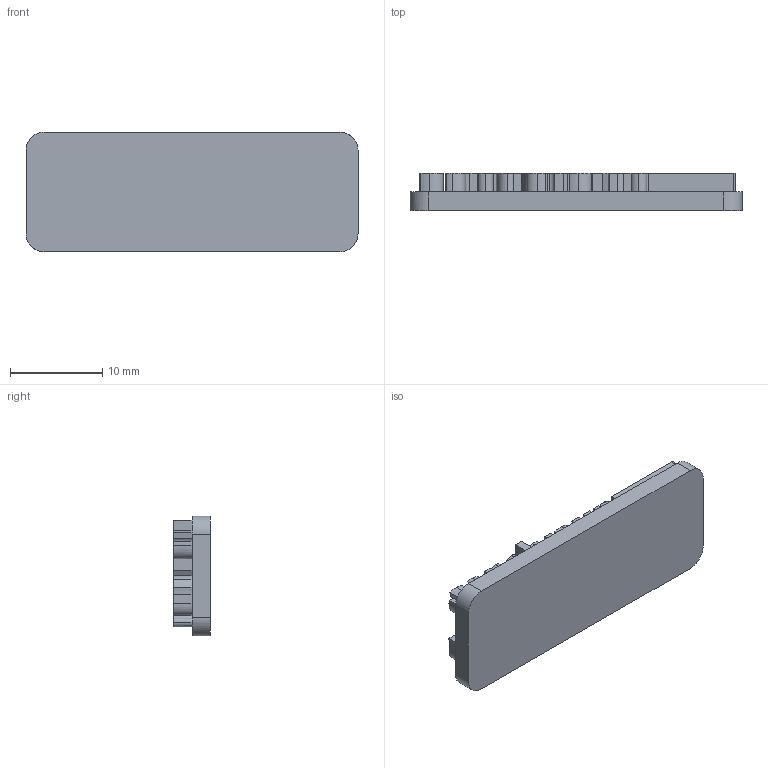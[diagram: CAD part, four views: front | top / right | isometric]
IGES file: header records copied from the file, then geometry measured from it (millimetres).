
Global section: file name: v0; native system: unknown; preprocessor: unknown; author: ddssk.m; organization: unknown; date: 20181025.150640; units: millimetre
Bounding box: 36 x 4 x 13 mm (x, y, z)
Volume: 1199 mm3; surface area: 1709.7 mm2
Topology: 1 solids, 1 shells, 310 faces, 840 edges, 560 vertices
Faces by surface type: bspline 310
